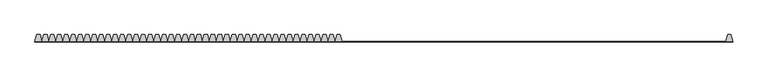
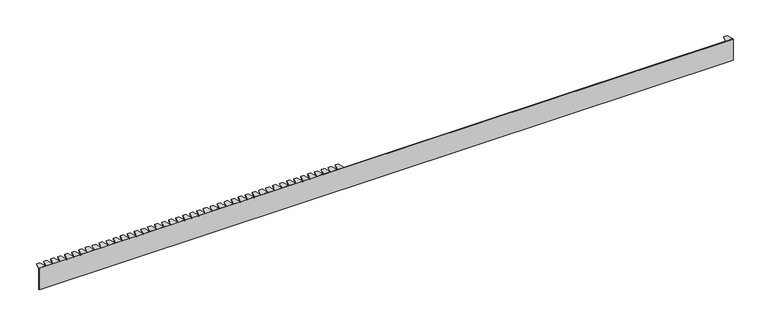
"""IFC4 building model written with IfcOpenShell, lengths in millimetres: duct fitting geometry, Частичная крышка шириной 65 мм - для кабель-канала DLP 65x195 - 2м - белый : Частичная крышка шириной 65 мм - для кабель-канала DLP 65x195 - 2м - белый."""

from ifc_helpers import new_model, si_unit, frame, origin, place, context, project, spatial, polyline, outline, extrude, source, transform, mapped, element, save


def duct_fitting_8fd437b2(model_context):
    return source(origin(), model_context, "Body", "SweptSolid", [
        extrude(outline(polyline([(-125.3589838, 20.0), (-120.0, 0.0), (-140.0, 0.0), (-134.2650923, 20.0), (-125.3589838, 20.0)])), frame((0.0, 0.0, 30.5), z_axis=(0.0, 0.0, 1.0), x_axis=(1.0, 0.0, 0.0)), (0.0, 0.0, 1.0), 2.0),
        extrude(outline(polyline([(-145.3589838, 20.0), (-140.0, 0.0), (-160.0, 0.0), (-154.2650923, 20.0), (-145.3589838, 20.0)])), frame((0.0, 0.0, 30.5), z_axis=(0.0, 0.0, 1.0), x_axis=(1.0, 0.0, 0.0)), (0.0, 0.0, 1.0), 2.0),
        extrude(outline(polyline([(-165.3589838, 20.0), (-160.0, 0.0), (-180.0, 0.0), (-174.2650923, 20.0), (-165.3589838, 20.0)])), frame((0.0, 0.0, 30.5), z_axis=(0.0, 0.0, 1.0), x_axis=(1.0, 0.0, 0.0)), (0.0, 0.0, 1.0), 2.0),
        extrude(outline(polyline([(-185.3589838, 20.0), (-180.0, 0.0), (-200.0, 0.0), (-194.2650923, 20.0), (-185.3589838, 20.0)])), frame((0.0, 0.0, 30.5), z_axis=(0.0, 0.0, 1.0), x_axis=(1.0, 0.0, 0.0)), (0.0, 0.0, 1.0), 2.0),
        extrude(outline(polyline([(-205.3589838, 20.0), (-200.0, 0.0), (-220.0, 0.0), (-214.2650923, 20.0), (-205.3589838, 20.0)])), frame((0.0, 0.0, 30.5), z_axis=(0.0, 0.0, 1.0), x_axis=(1.0, 0.0, 0.0)), (0.0, 0.0, 1.0), 2.0),
        extrude(outline(polyline([(-225.3589838, 20.0), (-220.0, 0.0), (-240.0, 0.0), (-234.2650923, 20.0), (-225.3589838, 20.0)])), frame((0.0, 0.0, 30.5), z_axis=(0.0, 0.0, 1.0), x_axis=(1.0, 0.0, 0.0)), (0.0, 0.0, 1.0), 2.0),
        extrude(outline(polyline([(-245.3589838, 20.0), (-240.0, 0.0), (-260.0, 0.0), (-254.2650923, 20.0), (-245.3589838, 20.0)])), frame((0.0, 0.0, 30.5), z_axis=(0.0, 0.0, 1.0), x_axis=(1.0, 0.0, 0.0)), (0.0, 0.0, 1.0), 2.0),
        extrude(outline(polyline([(-265.3589838, 20.0), (-260.0, 0.0), (-280.0, 0.0), (-274.2650923, 20.0), (-265.3589838, 20.0)])), frame((0.0, 0.0, 30.5), z_axis=(0.0, 0.0, 1.0), x_axis=(1.0, 0.0, 0.0)), (0.0, 0.0, 1.0), 2.0),
        extrude(outline(polyline([(-285.3589838, 20.0), (-280.0, 0.0), (-300.0, 0.0), (-294.2650923, 20.0), (-285.3589838, 20.0)])), frame((0.0, 0.0, 30.5), z_axis=(0.0, 0.0, 1.0), x_axis=(1.0, 0.0, 0.0)), (0.0, 0.0, 1.0), 2.0),
        extrude(outline(polyline([(-305.3589838, 20.0), (-300.0, 0.0), (-320.0, 0.0), (-314.2650923, 20.0), (-305.3589838, 20.0)])), frame((0.0, 0.0, 30.5), z_axis=(0.0, 0.0, 1.0), x_axis=(1.0, 0.0, 0.0)), (0.0, 0.0, 1.0), 2.0),
        extrude(outline(polyline([(-325.3589838, 20.0), (-320.0, 0.0), (-340.0, 0.0), (-334.2650923, 20.0), (-325.3589838, 20.0)])), frame((0.0, 0.0, 30.5), z_axis=(0.0, 0.0, 1.0), x_axis=(1.0, 0.0, 0.0)), (0.0, 0.0, 1.0), 2.0),
        extrude(outline(polyline([(-345.3589838, 20.0), (-340.0, 0.0), (-360.0, 0.0), (-354.2650923, 20.0), (-345.3589838, 20.0)])), frame((0.0, 0.0, 30.5), z_axis=(0.0, 0.0, 1.0), x_axis=(1.0, 0.0, 0.0)), (0.0, 0.0, 1.0), 2.0),
        extrude(outline(polyline([(-365.3589838, 20.0), (-360.0, 0.0), (-380.0, 0.0), (-374.2650923, 20.0), (-365.3589838, 20.0)])), frame((0.0, 0.0, 30.5), z_axis=(0.0, 0.0, 1.0), x_axis=(1.0, 0.0, 0.0)), (0.0, 0.0, 1.0), 2.0),
        extrude(outline(polyline([(-385.3589838, 20.0), (-380.0, 0.0), (-400.0, 0.0), (-394.2650923, 20.0), (-385.3589838, 20.0)])), frame((0.0, 0.0, 30.5), z_axis=(0.0, 0.0, 1.0), x_axis=(1.0, 0.0, 0.0)), (0.0, 0.0, 1.0), 2.0),
        extrude(outline(polyline([(-405.3589838, 20.0), (-400.0, 0.0), (-420.0, 0.0), (-414.2650923, 20.0), (-405.3589838, 20.0)])), frame((0.0, 0.0, 30.5), z_axis=(0.0, 0.0, 1.0), x_axis=(1.0, 0.0, 0.0)), (0.0, 0.0, 1.0), 2.0),
        extrude(outline(polyline([(-425.3589838, 20.0), (-420.0, 0.0), (-440.0, 0.0), (-434.2650923, 20.0), (-425.3589838, 20.0)])), frame((0.0, 0.0, 30.5), z_axis=(0.0, 0.0, 1.0), x_axis=(1.0, 0.0, 0.0)), (0.0, 0.0, 1.0), 2.0),
        extrude(outline(polyline([(-445.3589838, 20.0), (-440.0, 0.0), (-460.0, 0.0), (-454.2650923, 20.0), (-445.3589838, 20.0)])), frame((0.0, 0.0, 30.5), z_axis=(0.0, 0.0, 1.0), x_axis=(1.0, 0.0, 0.0)), (0.0, 0.0, 1.0), 2.0),
        extrude(outline(polyline([(-465.3589838, 20.0), (-460.0, 0.0), (-480.0, 0.0), (-474.2650923, 20.0), (-465.3589838, 20.0)])), frame((0.0, 0.0, 30.5), z_axis=(0.0, 0.0, 1.0), x_axis=(1.0, 0.0, 0.0)), (0.0, 0.0, 1.0), 2.0),
        extrude(outline(polyline([(-485.3589838, 20.0), (-480.0, 0.0), (-500.0, 0.0), (-494.2650923, 20.0), (-485.3589838, 20.0)])), frame((0.0, 0.0, 30.5), z_axis=(0.0, 0.0, 1.0), x_axis=(1.0, 0.0, 0.0)), (0.0, 0.0, 1.0), 2.0),
        extrude(outline(polyline([(-505.3589838, 20.0), (-500.0, 0.0), (-520.0, 0.0), (-514.2650923, 20.0), (-505.3589838, 20.0)])), frame((0.0, 0.0, 30.5), z_axis=(0.0, 0.0, 1.0), x_axis=(1.0, 0.0, 0.0)), (0.0, 0.0, 1.0), 2.0),
        extrude(outline(polyline([(-525.3589838, 20.0), (-520.0, 0.0), (-540.0, 0.0), (-534.2650923, 20.0), (-525.3589838, 20.0)])), frame((0.0, 0.0, 30.5), z_axis=(0.0, 0.0, 1.0), x_axis=(1.0, 0.0, 0.0)), (0.0, 0.0, 1.0), 2.0),
        extrude(outline(polyline([(-545.3589838, 20.0), (-540.0, 0.0), (-560.0, 0.0), (-554.2650923, 20.0), (-545.3589838, 20.0)])), frame((0.0, 0.0, 30.5), z_axis=(0.0, 0.0, 1.0), x_axis=(1.0, 0.0, 0.0)), (0.0, 0.0, 1.0), 2.0),
        extrude(outline(polyline([(-565.3589838, 20.0), (-560.0, 0.0), (-580.0, 0.0), (-574.2650923, 20.0), (-565.3589838, 20.0)])), frame((0.0, 0.0, 30.5), z_axis=(0.0, 0.0, 1.0), x_axis=(1.0, 0.0, 0.0)), (0.0, 0.0, 1.0), 2.0),
        extrude(outline(polyline([(-585.3589838, 20.0), (-580.0, 0.0), (-600.0, 0.0), (-594.2650923, 20.0), (-585.3589838, 20.0)])), frame((0.0, 0.0, 30.5), z_axis=(0.0, 0.0, 1.0), x_axis=(1.0, 0.0, 0.0)), (0.0, 0.0, 1.0), 2.0),
        extrude(outline(polyline([(-605.3589838, 20.0), (-600.0, 0.0), (-620.0, 0.0), (-614.2650923, 20.0), (-605.3589838, 20.0)])), frame((0.0, 0.0, 30.5), z_axis=(0.0, 0.0, 1.0), x_axis=(1.0, 0.0, 0.0)), (0.0, 0.0, 1.0), 2.0),
        extrude(outline(polyline([(-625.3589838, 20.0), (-620.0, 0.0), (-640.0, 0.0), (-634.2650923, 20.0), (-625.3589838, 20.0)])), frame((0.0, 0.0, 30.5), z_axis=(0.0, 0.0, 1.0), x_axis=(1.0, 0.0, 0.0)), (0.0, 0.0, 1.0), 2.0),
        extrude(outline(polyline([(-645.3589838, 20.0), (-640.0, 0.0), (-660.0, 0.0), (-654.2650923, 20.0), (-645.3589838, 20.0)])), frame((0.0, 0.0, 30.5), z_axis=(0.0, 0.0, 1.0), x_axis=(1.0, 0.0, 0.0)), (0.0, 0.0, 1.0), 2.0),
        extrude(outline(polyline([(-665.3589838, 20.0), (-660.0, 0.0), (-680.0, 0.0), (-674.2650923, 20.0), (-665.3589838, 20.0)])), frame((0.0, 0.0, 30.5), z_axis=(0.0, 0.0, 1.0), x_axis=(1.0, 0.0, 0.0)), (0.0, 0.0, 1.0), 2.0),
        extrude(outline(polyline([(-685.3589838, 20.0), (-680.0, 0.0), (-700.0, 0.0), (-694.2650923, 20.0), (-685.3589838, 20.0)])), frame((0.0, 0.0, 30.5), z_axis=(0.0, 0.0, 1.0), x_axis=(1.0, 0.0, 0.0)), (0.0, 0.0, 1.0), 2.0),
        extrude(outline(polyline([(-705.3589838, 20.0), (-700.0, 0.0), (-720.0, 0.0), (-714.2650923, 20.0), (-705.3589838, 20.0)])), frame((0.0, 0.0, 30.5), z_axis=(0.0, 0.0, 1.0), x_axis=(1.0, 0.0, 0.0)), (0.0, 0.0, 1.0), 2.0),
        extrude(outline(polyline([(-725.3589838, 20.0), (-720.0, 0.0), (-740.0, 0.0), (-734.2650923, 20.0), (-725.3589838, 20.0)])), frame((0.0, 0.0, 30.5), z_axis=(0.0, 0.0, 1.0), x_axis=(1.0, 0.0, 0.0)), (0.0, 0.0, 1.0), 2.0),
        extrude(outline(polyline([(-745.3589838, 20.0), (-740.0, 0.0), (-760.0, 0.0), (-754.2650923, 20.0), (-745.3589838, 20.0)])), frame((0.0, 0.0, 30.5), z_axis=(0.0, 0.0, 1.0), x_axis=(1.0, 0.0, 0.0)), (0.0, 0.0, 1.0), 2.0),
        extrude(outline(polyline([(-765.3589838, 20.0), (-760.0, 0.0), (-780.0, 0.0), (-774.2650923, 20.0), (-765.3589838, 20.0)])), frame((0.0, 0.0, 30.5), z_axis=(0.0, 0.0, 1.0), x_axis=(1.0, 0.0, 0.0)), (0.0, 0.0, 1.0), 2.0),
        extrude(outline(polyline([(-785.3589838, 20.0), (-780.0, 0.0), (-800.0, 0.0), (-794.2650923, 20.0), (-785.3589838, 20.0)])), frame((0.0, 0.0, 30.5), z_axis=(0.0, 0.0, 1.0), x_axis=(1.0, 0.0, 0.0)), (0.0, 0.0, 1.0), 2.0),
        extrude(outline(polyline([(-805.3589838, 20.0), (-800.0, 0.0), (-820.0, 0.0), (-814.2650923, 20.0), (-805.3589838, 20.0)])), frame((0.0, 0.0, 30.5), z_axis=(0.0, 0.0, 1.0), x_axis=(1.0, 0.0, 0.0)), (0.0, 0.0, 1.0), 2.0),
        extrude(outline(polyline([(-825.3589838, 20.0), (-820.0, 0.0), (-840.0, 0.0), (-834.2650923, 20.0), (-825.3589838, 20.0)])), frame((0.0, 0.0, 30.5), z_axis=(0.0, 0.0, 1.0), x_axis=(1.0, 0.0, 0.0)), (0.0, 0.0, 1.0), 2.0),
        extrude(outline(polyline([(-845.3589838, 20.0), (-840.0, 0.0), (-860.0, 0.0), (-854.2650923, 20.0), (-845.3589838, 20.0)])), frame((0.0, 0.0, 30.5), z_axis=(0.0, 0.0, 1.0), x_axis=(1.0, 0.0, 0.0)), (0.0, 0.0, 1.0), 2.0),
        extrude(outline(polyline([(-865.3589838, 20.0), (-860.0, 0.0), (-880.0, 0.0), (-874.2650923, 20.0), (-865.3589838, 20.0)])), frame((0.0, 0.0, 30.5), z_axis=(0.0, 0.0, 1.0), x_axis=(1.0, 0.0, 0.0)), (0.0, 0.0, 1.0), 2.0),
        extrude(outline(polyline([(-885.3589838, 20.0), (-880.0, 0.0), (-900.0, 0.0), (-894.2650923, 20.0), (-885.3589838, 20.0)])), frame((0.0, 0.0, 30.5), z_axis=(0.0, 0.0, 1.0), x_axis=(1.0, 0.0, 0.0)), (0.0, 0.0, 1.0), 2.0),
        extrude(outline(polyline([(-905.3589838, 20.0), (-900.0, 0.0), (-920.0, 0.0), (-914.2650923, 20.0), (-905.3589838, 20.0)])), frame((0.0, 0.0, 30.5), z_axis=(0.0, 0.0, 1.0), x_axis=(1.0, 0.0, 0.0)), (0.0, 0.0, 1.0), 2.0),
        extrude(outline(polyline([(-925.3589838, 20.0), (-920.0, 0.0), (-940.0, 0.0), (-934.2650923, 20.0), (-925.3589838, 20.0)])), frame((0.0, 0.0, 30.5), z_axis=(0.0, 0.0, 1.0), x_axis=(1.0, 0.0, 0.0)), (0.0, 0.0, 1.0), 2.0),
        extrude(outline(polyline([(-945.3589838, 20.0), (-940.0, 0.0), (-960.0, 0.0), (-954.2650923, 20.0), (-945.3589838, 20.0)])), frame((0.0, 0.0, 30.5), z_axis=(0.0, 0.0, 1.0), x_axis=(1.0, 0.0, 0.0)), (0.0, 0.0, 1.0), 2.0),
        extrude(outline(polyline([(-965.3589838, 20.0), (-960.0, 0.0), (-980.0, 0.0), (-974.2650923, 20.0), (-965.3589838, 20.0)])), frame((0.0, 0.0, 30.5), z_axis=(0.0, 0.0, 1.0), x_axis=(1.0, 0.0, 0.0)), (0.0, 0.0, 1.0), 2.0),
        extrude(outline(polyline([(994.6410162, 20.0), (1000.0, 0.0), (980.0, 0.0), (985.7349077, 20.0), (994.6410162, 20.0)])), frame((0.0, 0.0, 30.5), z_axis=(0.0, 0.0, 1.0), x_axis=(1.0, 0.0, 0.0)), (0.0, 0.0, 1.0), 2.0),
        extrude(outline(polyline([(-985.3589838, 20.0), (-980.0, 0.0), (-1000.0, 0.0), (-994.2650923, 20.0), (-985.3589838, 20.0)])), frame((0.0, 0.0, 30.5), z_axis=(0.0, 0.0, 1.0), x_axis=(1.0, 0.0, 0.0)), (0.0, 0.0, 1.0), 2.0),
        extrude(outline(polyline([(-1000.0, -1.0), (-1000.0, 1.0), (1000.0, 1.0), (1000.0, -1.0), (-1000.0, -1.0)])), frame((0.0, 0.0, -32.5), z_axis=(0.0, 0.0, 1.0), x_axis=(1.0, 0.0, 0.0)), (0.0, 0.0, 1.0), 65.0),
    ])


if __name__ == "__main__":
    model = new_model("IFC4")
    model_context = context("Model", 3, world=origin())
    ifc_project = project(units=[si_unit("LENGTHUNIT", "METRE", prefix="MILLI")], contexts=[model_context])
    site = spatial("IfcSite", under=ifc_project)
    building = spatial("IfcBuilding", under=site)
    placement = place(None, origin())
    duct_fitting_shape = duct_fitting_8fd437b2(model_context)
    element("IfcDuctFitting", 1, ObjectType="Частичная крышка шириной 65 мм - для кабель-канала DLP 65x195 - 2м - белый : Частичная крышка шириной 65 мм - для кабель-канала DLP 65x195 - 2м - белый", at=placement, inside=building, context=model_context, shape_type="MappedRepresentation", body=[
        mapped(duct_fitting_shape, transform((0.0, 0.0, 0.0), x_axis=(1.0, 0.0, 0.0), y_axis=(0.0, 1.0, 0.0), z_axis=(0.0, 0.0, 1.0))),
    ])
    save(model, "model.ifc")
